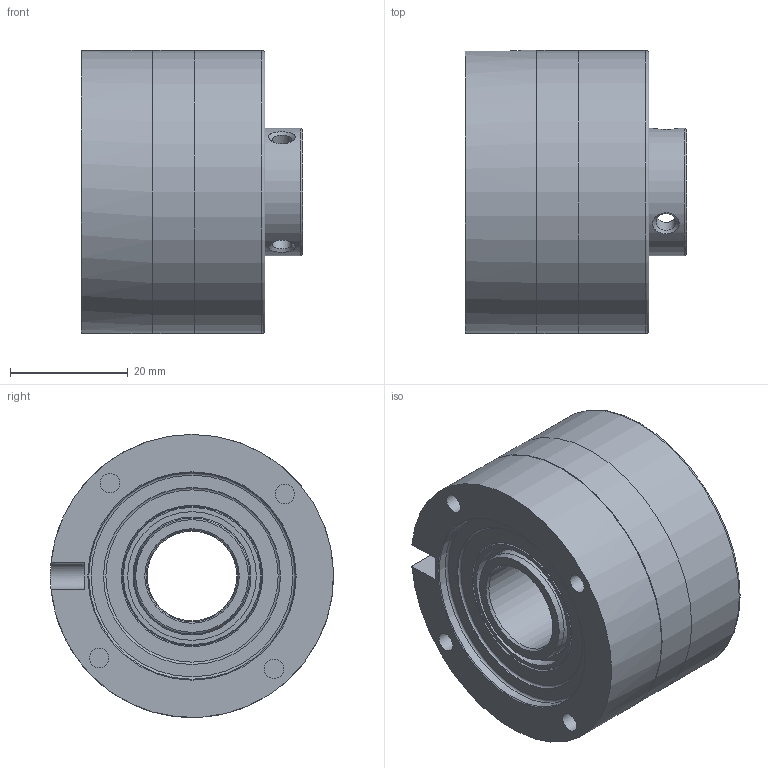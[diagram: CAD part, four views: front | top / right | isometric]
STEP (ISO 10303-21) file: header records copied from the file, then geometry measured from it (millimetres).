
FILE_DESCRIPTION (( 'STEP AP214' ), '1' );
FILE_NAME ('86 61104Pxx_PF-ID 218351_Index -.STEP', '2020-02-06T13:39:56', ( '' ), ( '' ), 'SwSTEP 2.0', 'SolidWorks 2018', '' );
FILE_SCHEMA (( 'AUTOMOTIVE_DESIGN' ));
Length unit declared in the file: millimetre
Products named in the file (1): 86 61104Pxx_PF-ID 218351_Index -
Bounding box: 37.48 x 48 x 48 mm (x, y, z)
Volume: 47221.6 mm3; surface area: 18675 mm2
Topology: 2 solids, 2 shells, 68 faces, 126 edges, 78 vertices
Faces by surface type: cylinder 26, plane 23, cone 15, torus 4
Full cylindrical faces by diameter (mm): 3.3 x7, 15.2 x1, 15.5 x1, 19.6 x1, 20 x1, 21 x1, 21.6 x1, 21.8 x2, 22.1 x1, 30 x1, 32 x1, 35 x1, 44.6 x1, 45 x1, 45.377 x1, 46 x1, 48 x2
Entity records: 1901 total; most frequent: CARTESIAN_POINT 564, DIRECTION 271, ORIENTED_EDGE 156, EDGE_LOOP 138, AXIS2_PLACEMENT_3D 131, FACE_OUTER_BOUND 97, EDGE_CURVE 78, VERTEX_POINT 74
